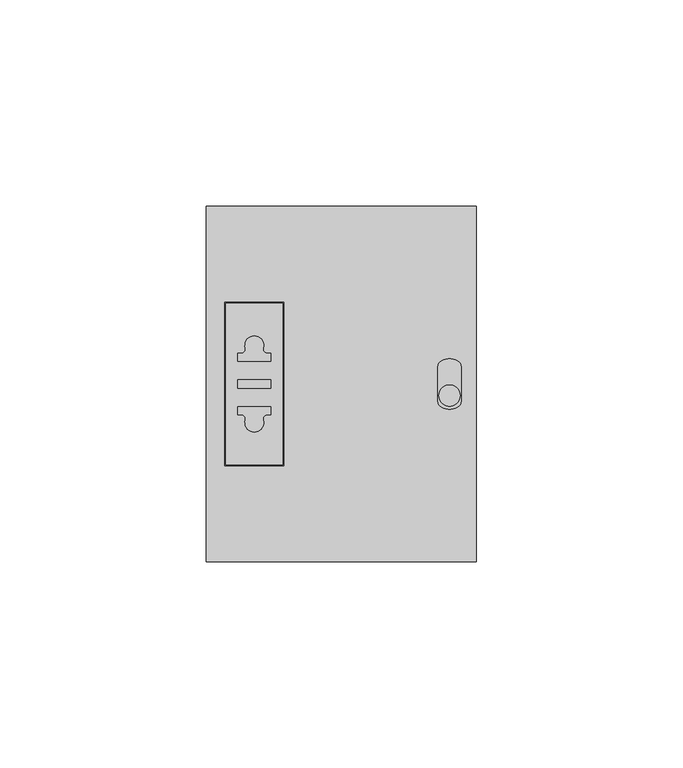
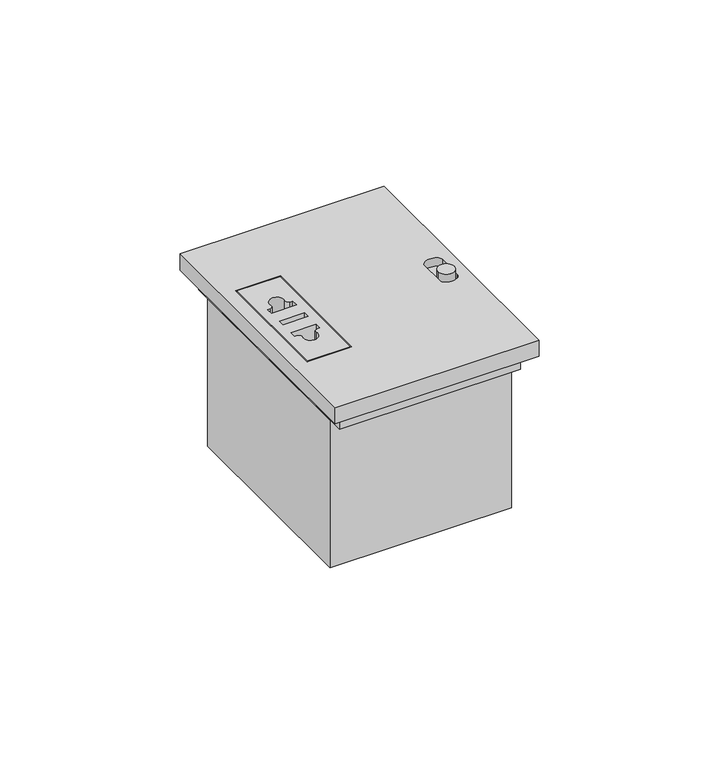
"""IFC4 building model written with IfcOpenShell, lengths in millimetres: proxy geometry, BT_LN_PresaRasoio : Prese Rasoio - Art. KW4177 - 1M."""

from ifc_helpers import new_model, si_unit, point, frame, frame_2d, origin, origin_with_axes, place, context, project, spatial, polyline, circle_curve, ellipse_curve, trimmed, segment, composite_curve, outline, extrude, source, transform, mapped, element, save
from ifc_brep_helpers import plane_surface, extruded_surface, advanced_brep


def electrical_fixtures_2dbe9040(model_context):
    return source(origin(), model_context, "Body", "SolidModel", [
        extrude(outline(polyline([(-29.0, 39.0), (29.0, 39.0), (29.0, -39.0), (-29.0, -39.0), (-29.0, 39.0)])), frame((0.0, 0.0, 50.0), z_axis=(0.0, 0.0, 1.0), x_axis=(1.0, 0.0, 0.0)), (0.0, 0.0, 1.0), 5.5),
        extrude(outline(polyline([(-29.0, 34.0), (29.0, 34.0), (29.0, -34.0), (-29.0, -34.0), (-29.0, 34.0)])), origin_with_axes(), (0.0, 0.0, 1.0), 50.0),
        extrude(outline(composite_curve([segment(trimmed(circle_curve(frame_2d((26.1684592, -2.8125)), 2.5766042), [point((28.7450634, -2.8125))], [point((23.591855, -2.8125))], False, "CARTESIAN"), True, "CONTINUOUS"), segment(trimmed(circle_curve(frame_2d((26.1684592, -2.8125)), 2.5766042), [point((23.591855, -2.8125))], [point((28.7450634, -2.8125))], False, "CARTESIAN"), True, "CONTINUOUS")], self_intersect=False)), frame((0.0, 0.0, 58.1386827), z_axis=(0.0, 0.0, 1.0), x_axis=(1.0, 0.0, 0.0)), (0.0, 0.0, 1.0), 4.8857788),
        extrude(outline(polyline([(-27.9649606, 19.5265945), (-14.2347892, 19.5265945), (-14.2347892, -19.5265945), (-27.9649606, -19.5265945), (-27.9649606, 19.5265945)]), holes=[composite_curve([segment(trimmed(circle_curve(frame_2d((-24.2413416, 8.455851)), 1.0), [point((-23.2810252, 8.7347641))], [point((-24.2413416, 7.455851))], False, "CARTESIAN"), True, "CONTINUOUS"), segment(polyline([(-24.2413416, 7.455851), (-25.0998749, 7.455851), (-25.0998749, 5.455851), (-17.0998749, 5.455851), (-17.0998749, 7.455851), (-17.9584082, 7.455851)]), True, "CONTINUOUS"), segment(trimmed(circle_curve(frame_2d((-17.9584082, 8.455851)), 1.0), [point((-17.9584082, 7.455851))], [point((-18.9187245, 8.7347641))], False, "CARTESIAN"), True, "CONTINUOUS"), segment(trimmed(circle_curve(frame_2d((-21.0998749, 9.3682548)), 2.2712832), [point((-18.9187245, 8.7347641))], [point((-23.2810252, 8.7347641))], True, "CARTESIAN"), True, "CONTINUOUS")], self_intersect=False), polyline([(-17.0998749, -1.0), (-17.0998749, 1.0), (-25.0998749, 1.0), (-25.0998749, -1.0), (-17.0998749, -1.0)]), composite_curve([segment(trimmed(circle_curve(frame_2d((-24.2413416, -8.455851)), 1.0), [point((-24.2413416, -7.455851))], [point((-23.2810252, -8.7347641))], False, "CARTESIAN"), True, "CONTINUOUS"), segment(trimmed(circle_curve(frame_2d((-21.0998749, -9.3682548)), 2.2712832), [point((-23.2810252, -8.7347641))], [point((-18.9187245, -8.7347641))], True, "CARTESIAN"), True, "CONTINUOUS"), segment(trimmed(circle_curve(frame_2d((-17.9584082, -8.455851)), 1.0), [point((-18.9187245, -8.7347641))], [point((-17.9584082, -7.455851))], False, "CARTESIAN"), True, "CONTINUOUS"), segment(polyline([(-17.9584082, -7.455851), (-17.0998749, -7.455851), (-17.0998749, -5.455851), (-25.0998749, -5.455851), (-25.0998749, -7.455851), (-24.2413416, -7.455851)]), True, "CONTINUOUS")], self_intersect=False)]), frame((0.0, 0.0, 55.5), z_axis=(0.0, 0.0, 1.0), x_axis=(1.0, 0.0, 0.0)), (0.0, 0.0, 1.0), 5.5),
        advanced_brep(
        [(-32.7, -43.0, 61.0), (32.7, -43.0, 61.0), (32.7, 43.0, 61.0), (-32.7, 43.0, 61.0), (-28.2649606, 19.8265945, 61.0), (-13.9347892, 19.8265945, 61.0), (-13.9347892, -19.8265945, 61.0), (-28.2649606, -19.8265945, 61.0), (23.3369184, 4.2072702, 61.0), (29.0, 4.2072702, 61.0), (29.0, -4.2072702, 61.0), (23.3369184, -4.2072702, 61.0), (-32.7, -43.0, 55.5), (-32.7, 43.0, 55.5), (32.7, 43.0, 55.5), (32.7, -43.0, 55.5), (-13.9347892, 19.8265945, 55.5), (-28.2649606, 19.8265945, 55.5), (-28.2649606, -19.8265945, 55.5), (-13.9347892, -19.8265945, 55.5), (29.0, 4.2072702, 58.1386827), (23.3369184, 4.2072702, 58.1386827), (23.3369184, -4.2072702, 58.1386827), (29.0, -4.2072702, 58.1386827)],
        [
            (0, 1),
            (1, 2),
            (2, 3),
            (3, 0),
            (4, 5),
            (5, 6),
            (6, 7),
            (7, 4),
            (8, 9, ellipse_curve(frame((26.1684592, 4.2072702, 61.0), z_axis=(0.0, 0.0, -1.0), x_axis=(-1.0, 0.0, 0.0)), 2.8315408, 1.9336389)),
            (9, 10),
            (10, 11, ellipse_curve(frame((26.1684592, -4.2072702, 61.0), z_axis=(0.0, 0.0, -1.0), x_axis=(-1.0, 0.0, 0.0)), 2.8315408, 1.9336389)),
            (11, 8),
            (12, 13),
            (13, 14),
            (14, 15),
            (15, 12),
            (16, 17),
            (17, 18),
            (18, 19),
            (19, 16),
            (0, 12),
            (15, 1),
            (14, 2),
            (13, 3),
            (4, 17),
            (16, 5),
            (7, 18),
            (6, 19),
            (20, 21, ellipse_curve(frame((26.1684592, 4.2072702, 58.1386827), z_axis=(0.0, 0.0, 1.0), x_axis=(-1.0, 0.0, 0.0)), 2.8315408, 1.9336389)),
            (21, 22),
            (22, 23, ellipse_curve(frame((26.1684592, -4.2072702, 58.1386827), z_axis=(0.0, 0.0, 1.0), x_axis=(-1.0, 0.0, 0.0)), 2.8315408, 1.9336389)),
            (23, 20),
            (20, 9),
            (8, 21),
            (11, 22),
            (10, 23),
        ],
        [
            plane_surface(frame((32.7, -43.0, 61.0), z_axis=(0.0, 0.0, 1.0), x_axis=(1.0, 0.0, 0.0))),
            plane_surface(frame((32.7, -43.0, 55.5), z_axis=(0.0, 0.0, -1.0), x_axis=(-1.0, 0.0, 0.0))),
            plane_surface(frame((-32.7, -43.0, 61.0), z_axis=(0.0, -1.0, 0.0), x_axis=(0.0, 0.0, -1.0))),
            plane_surface(frame((32.7, -43.0, 61.0), z_axis=(1.0, 0.0, 0.0), x_axis=(0.0, 0.0, -1.0))),
            plane_surface(frame((32.7, 43.0, 61.0), z_axis=(0.0, 1.0, 0.0), x_axis=(0.0, 0.0, -1.0))),
            plane_surface(frame((-32.7, 43.0, 61.0), z_axis=(-1.0, 0.0, 0.0), x_axis=(0.0, 0.0, -1.0))),
            plane_surface(frame((-13.9347892, 19.8265945, 61.0), z_axis=(0.0, -1.0, 0.0), x_axis=(0.0, 0.0, -1.0))),
            plane_surface(frame((-28.2649606, 19.8265945, 61.0), z_axis=(1.0, 0.0, 0.0), x_axis=(0.0, 0.0, -1.0))),
            plane_surface(frame((-28.2649606, -19.8265945, 61.0), z_axis=(0.0, 1.0, 0.0), x_axis=(0.0, 0.0, -1.0))),
            plane_surface(frame((-13.9347892, -19.8265945, 61.0), z_axis=(-1.0, 0.0, 0.0), x_axis=(0.0, 0.0, -1.0))),
            plane_surface(frame((23.3369184, 4.2072702, 58.1386827), z_axis=(0.0, 0.0, 1.0), x_axis=(0.0, 1.0, 0.0))),
            extruded_surface(trimmed(ellipse_curve(frame((26.1684592, 4.2072702, 58.1386827), z_axis=(0.0, 0.0, 1.0), x_axis=(-1.0, 0.0, 0.0)), 2.8315408, 1.9336389), [point((29.0, 4.2072702, 58.1386827))], [point((23.3369184, 4.2072702, 58.1386827))], True, "CARTESIAN"), (0.0, 0.0, -2.861317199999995), 2.861317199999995),
            plane_surface(frame((23.3369184, 4.2072702, 61.0), z_axis=(1.0, 0.0, 0.0), x_axis=(0.0, 0.0, -1.0))),
            extruded_surface(trimmed(ellipse_curve(frame((26.1684592, -4.2072702, 58.1386827), z_axis=(0.0, 0.0, 1.0), x_axis=(-1.0, 0.0, 0.0)), 2.8315408, 1.9336389), [point((23.3369184, -4.2072702, 58.1386827))], [point((29.0, -4.2072702, 58.1386827))], True, "CARTESIAN"), (0.0, 0.0, -2.861317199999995), 2.861317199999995),
            plane_surface(frame((29.0, -4.2072702, 61.0), z_axis=(-1.0, 0.0, 0.0), x_axis=(0.0, 0.0, -1.0))),
        ],
        [
            (0, [[1, 2, 3, 4], [5, 6, 7, 8], [9, 10, 11, 12]]),
            (1, [[13, 14, 15, 16], [17, 18, 19, 20]]),
            (2, [[-1, 21, -16, 22]]),
            (3, [[-2, -22, -15, 23]]),
            (4, [[-3, -23, -14, 24]]),
            (5, [[-4, -24, -13, -21]]),
            (6, [[25, -17, 26, -5]]),
            (7, [[-25, -8, 27, -18]]),
            (8, [[-27, -7, 28, -19]]),
            (9, [[-26, -20, -28, -6]]),
            (10, [[29, 30, 31, 32]]),
            (11, [[-29, 33, -9, 34]]),
            (12, [[-30, -34, -12, 35]]),
            (13, [[-31, -35, -11, 36]]),
            (14, [[-32, -36, -10, -33]]),
        ],
    ),
    ])


if __name__ == "__main__":
    model = new_model("IFC4")
    model_context = context("Model", 3, world=origin())
    ifc_project = project(units=[si_unit("LENGTHUNIT", "METRE", prefix="MILLI")], contexts=[model_context])
    site = spatial("IfcSite", under=ifc_project)
    building = spatial("IfcBuilding", under=site)
    placement = place(None, origin())
    electrical_fixtures_shape = electrical_fixtures_2dbe9040(model_context)
    element("IfcBuildingElementProxy", 1, Name="BT_LN_PresaRasoio : Prese Rasoio - Art. KW4177 - 1M", ObjectType="BT_LN_PresaRasoio : Prese Rasoio - Art. KW4177 - 1M", at=placement, inside=building, context=model_context, shape_type="MappedRepresentation", body=[
        mapped(electrical_fixtures_shape, transform((0.0, 0.0, 0.0), x_axis=(1.0, 0.0, 0.0), y_axis=(0.0, 1.0, 0.0), z_axis=(0.0, 0.0, 1.0))),
    ])
    save(model, "model.ifc")
